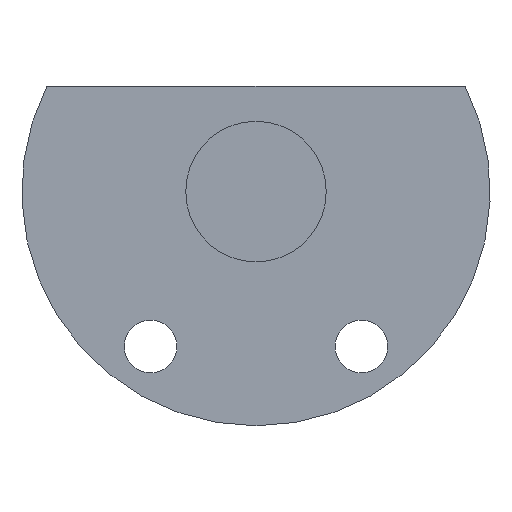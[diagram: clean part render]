
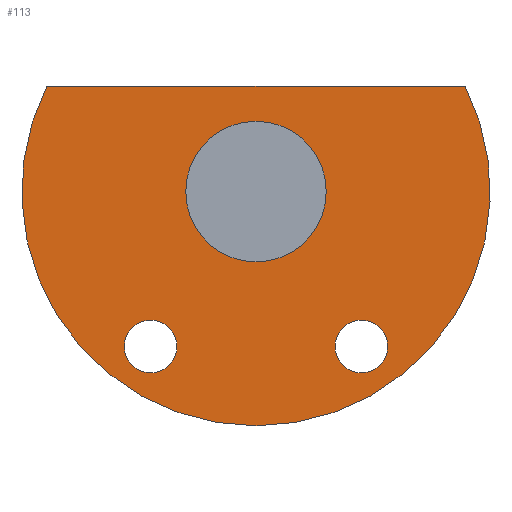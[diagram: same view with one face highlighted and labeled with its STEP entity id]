
A CAD part, front view. The second image highlights one B-rep face of the part: STEP entity #113.
In plain terms, the highlighted planar face has unit normal (0, -1, 0).
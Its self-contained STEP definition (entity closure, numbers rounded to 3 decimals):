
#24 = VERTEX_POINT('',#25);
#25 = CARTESIAN_POINT('',(-17.861,-711.,9.));
#31 = EDGE_CURVE('',#24,#32,#34,.T.);
#32 = VERTEX_POINT('',#33);
#33 = CARTESIAN_POINT('',(17.861,-711.,9.));
#34 = CIRCLE('',#35,20.);
#35 = AXIS2_PLACEMENT_3D('',#36,#37,#38);
#36 = CARTESIAN_POINT('',(0.,-711.,0.));
#37 = DIRECTION('',(0.,-1.,0.));
#38 = DIRECTION('',(1.,0.,0.));
#64 = EDGE_CURVE('',#24,#32,#65,.T.);
#65 = LINE('',#66,#67);
#66 = CARTESIAN_POINT('',(-17.861,-711.,9.));
#67 = VECTOR('',#68,1.);
#68 = DIRECTION('',(1.,0.,0.));
#113 = ADVANCED_FACE('',(#114,#118,#129,#140),#151,.F.);
#114 = FACE_BOUND('',#115,.F.);
#115 = EDGE_LOOP('',(#116,#117));
#116 = ORIENTED_EDGE('',*,*,#31,.F.);
#117 = ORIENTED_EDGE('',*,*,#64,.T.);
#118 = FACE_BOUND('',#119,.F.);
#119 = EDGE_LOOP('',(#120));
#120 = ORIENTED_EDGE('',*,*,#121,.T.);
#121 = EDGE_CURVE('',#122,#122,#124,.T.);
#122 = VERTEX_POINT('',#123);
#123 = CARTESIAN_POINT('',(-6.75,-711.,-13.229));
#124 = CIRCLE('',#125,2.25);
#125 = AXIS2_PLACEMENT_3D('',#126,#127,#128);
#126 = CARTESIAN_POINT('',(-9.,-711.,-13.229));
#127 = DIRECTION('',(0.,-1.,0.));
#128 = DIRECTION('',(1.,0.,0.));
#129 = FACE_BOUND('',#130,.F.);
#130 = EDGE_LOOP('',(#131));
#131 = ORIENTED_EDGE('',*,*,#132,.T.);
#132 = EDGE_CURVE('',#133,#133,#135,.T.);
#133 = VERTEX_POINT('',#134);
#134 = CARTESIAN_POINT('',(11.25,-711.,-13.229));
#135 = CIRCLE('',#136,2.25);
#136 = AXIS2_PLACEMENT_3D('',#137,#138,#139);
#137 = CARTESIAN_POINT('',(9.,-711.,-13.229));
#138 = DIRECTION('',(0.,-1.,0.));
#139 = DIRECTION('',(1.,0.,0.));
#140 = FACE_BOUND('',#141,.F.);
#141 = EDGE_LOOP('',(#142));
#142 = ORIENTED_EDGE('',*,*,#143,.T.);
#143 = EDGE_CURVE('',#144,#144,#146,.T.);
#144 = VERTEX_POINT('',#145);
#145 = CARTESIAN_POINT('',(6.,-711.,0.));
#146 = CIRCLE('',#147,6.);
#147 = AXIS2_PLACEMENT_3D('',#148,#149,#150);
#148 = CARTESIAN_POINT('',(0.,-711.,0.
    ));
#149 = DIRECTION('',(0.,-1.,0.));
#150 = DIRECTION('',(1.,0.,0.));
#151 = PLANE('',#152);
#152 = AXIS2_PLACEMENT_3D('',#153,#154,#155);
#153 = CARTESIAN_POINT('',(0.,-711.,-2.11));
#154 = DIRECTION('',(0.,1.,0.));
#155 = DIRECTION('',(0.,0.,1.));
